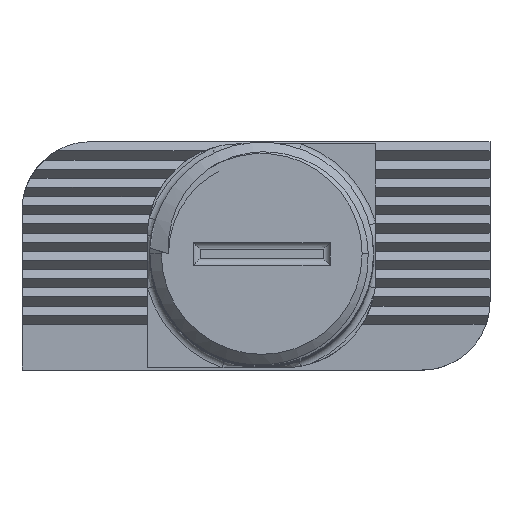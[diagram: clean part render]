
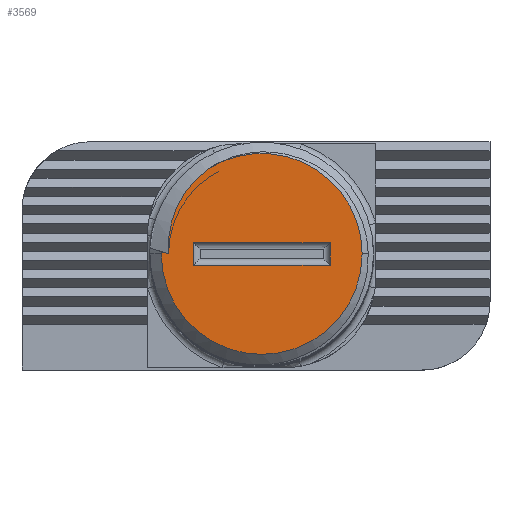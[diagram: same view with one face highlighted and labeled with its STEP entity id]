
A CAD part, top view. The second image highlights one B-rep face of the part: STEP entity #3569.
In plain terms, the highlighted planar face has unit normal (0, 0, 1).
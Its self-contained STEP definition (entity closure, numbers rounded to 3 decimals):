
#111 = DIRECTION ( 'NONE',  ( 1., 0., 0. ) ) ;
#257 = DIRECTION ( 'NONE',  ( 0., -1., 0. ) ) ;
#287 = VECTOR ( 'NONE', #5406, 1000. ) ;
#341 = EDGE_CURVE ( 'NONE', #7554, #1872, #4583, .T. ) ;
#448 = ORIENTED_EDGE ( 'NONE', *, *, #5956, .T. ) ;
#472 = CARTESIAN_POINT ( 'NONE',  ( -5.4, -0.353, 54.5 ) ) ;
#523 = CARTESIAN_POINT ( 'NONE',  ( -3.665, 3.12, 54.5 ) ) ;
#549 = CARTESIAN_POINT ( 'NONE',  ( 2., 0.147, 54.5 ) ) ;
#627 = VERTEX_POINT ( 'NONE', #472 ) ;
#813 = FACE_BOUND ( 'NONE', #3524, .T. ) ;
#1019 = CARTESIAN_POINT ( 'NONE',  ( -4., 0.147, 54.5 ) ) ;
#1113 = CIRCLE ( 'NONE', #7298, 4.4 ) ;
#1139 = AXIS2_PLACEMENT_3D ( 'NONE', #2149, #7530, #2936 ) ;
#1294 = CARTESIAN_POINT ( 'NONE',  ( -3.388, 3.343, 54.5 ) ) ;
#1546 = CARTESIAN_POINT ( 'NONE',  ( 3.4, -0.353, 54.5 ) ) ;
#1755 = ORIENTED_EDGE ( 'NONE', *, *, #3564, .F. ) ;
#1870 = CARTESIAN_POINT ( 'NONE',  ( -4., 0.147, 54.5 ) ) ;
#1872 = VERTEX_POINT ( 'NONE', #2080 ) ;
#2044 = CARTESIAN_POINT ( 'NONE',  ( -5.088, 0.355, 54.5 ) ) ;
#2080 = CARTESIAN_POINT ( 'NONE',  ( -4., -0.853, 54.5 ) ) ;
#2149 = CARTESIAN_POINT ( 'NONE',  ( -1., -0.353, 54.5 ) ) ;
#2400 = CARTESIAN_POINT ( 'NONE',  ( -3.388, 3.343, 54.5 ) ) ;
#2831 = CARTESIAN_POINT ( 'NONE',  ( -4.951, 1.052, 54.5 ) ) ;
#2859 = AXIS2_PLACEMENT_3D ( 'NONE', #8372, #3783, #9143 ) ;
#2893 = ORIENTED_EDGE ( 'NONE', *, *, #4945, .F. ) ;
#2936 = DIRECTION ( 'NONE',  ( 1., 0., 0. ) ) ;
#2958 = CARTESIAN_POINT ( 'NONE',  ( -5.08, -0.353, 54.5 ) ) ;
#3013 = EDGE_CURVE ( 'NONE', #7172, #7554, #9135, .T. ) ;
#3219 = EDGE_CURVE ( 'NONE', #5581, #3556, #4706, .T. ) ;
#3273 = VECTOR ( 'NONE', #5296, 1000. ) ;
#3497 = ORIENTED_EDGE ( 'NONE', *, *, #3013, .F. ) ;
#3524 = EDGE_LOOP ( 'NONE', ( #6341, #3497, #2893, #1755 ) ) ;
#3556 = VERTEX_POINT ( 'NONE', #2400 ) ;
#3564 = EDGE_CURVE ( 'NONE', #1872, #8636, #6975, .T. ) ;
#3569 = ADVANCED_FACE ( 'NONE', ( #813, #4978 ), #8570, .T. ) ;
#3620 = CARTESIAN_POINT ( 'NONE',  ( -4.781, 1.552, 54.5 ) ) ;
#3783 = DIRECTION ( 'NONE',  ( 0., 0., 1. ) ) ;
#4070 = ORIENTED_EDGE ( 'NONE', *, *, #3219, .F. ) ;
#4074 = DIRECTION ( 'NONE',  ( 0., 0., 1. ) ) ;
#4189 = LINE ( 'NONE', #6167, #287 ) ;
#4414 = CARTESIAN_POINT ( 'NONE',  ( -4.371, 2.337, 54.5 ) ) ;
#4583 = LINE ( 'NONE', #1019, #5885 ) ;
#4706 = B_SPLINE_CURVE_WITH_KNOTS ( 'NONE', 3,
 ( #2958, #9862, #2044, #7428, #2831, #8215, #3620, #8991, #4414, #9766, #5181, #523, #5942, #1294 ),
 .UNSPECIFIED., .F., .F.,
 ( 4, 2, 2, 2, 2, 2, 4 ),
 ( 0., 0.001, 0.002, 0.002, 0.003, 0.004, 0.004 ),
 .UNSPECIFIED. ) ;
#4769 = DIRECTION ( 'NONE',  ( 0., 0., 1. ) ) ;
#4901 = EDGE_LOOP ( 'NONE', ( #448, #5673, #6500, #9422, #4070 ) ) ;
#4945 = EDGE_CURVE ( 'NONE', #8636, #7172, #5789, .T. ) ;
#4978 = FACE_OUTER_BOUND ( 'NONE', #4901, .T. ) ;
#5143 = CARTESIAN_POINT ( 'NONE',  ( -5.399, -0.252, 54.5 ) ) ;
#5181 = CARTESIAN_POINT ( 'NONE',  ( -3.919, 2.875, 54.5 ) ) ;
#5296 = DIRECTION ( 'NONE',  ( 0., 1., 0. ) ) ;
#5406 = DIRECTION ( 'NONE',  ( -0.953, 0.301, 0. ) ) ;
#5443 = CIRCLE ( 'NONE', #1139, 4.4 ) ;
#5456 = CIRCLE ( 'NONE', #2859, 4.4 ) ;
#5497 = CARTESIAN_POINT ( 'NONE',  ( -4., -0.853, 54.5 ) ) ;
#5581 = VERTEX_POINT ( 'NONE', #9582 ) ;
#5673 = ORIENTED_EDGE ( 'NONE', *, *, #7830, .T. ) ;
#5789 = LINE ( 'NONE', #9925, #3273 ) ;
#5885 = VECTOR ( 'NONE', #257, 1000. ) ;
#5942 = CARTESIAN_POINT ( 'NONE',  ( -3.529, 3.236, 54.5 ) ) ;
#5956 = EDGE_CURVE ( 'NONE', #5581, #7671, #4189, .T. ) ;
#6042 = VERTEX_POINT ( 'NONE', #1546 ) ;
#6167 = CARTESIAN_POINT ( 'NONE',  ( -1.371, -1.526, 54.5 ) ) ;
#6180 = EDGE_CURVE ( 'NONE', #6042, #3556, #1113, .T. ) ;
#6215 = DIRECTION ( 'NONE',  ( 1., 0., 0. ) ) ;
#6341 = ORIENTED_EDGE ( 'NONE', *, *, #341, .F. ) ;
#6500 = ORIENTED_EDGE ( 'NONE', *, *, #8808, .T. ) ;
#6527 = DIRECTION ( 'NONE',  ( -1., 0., 0. ) ) ;
#6975 = LINE ( 'NONE', #5497, #8787 ) ;
#7172 = VERTEX_POINT ( 'NONE', #549 ) ;
#7274 = CARTESIAN_POINT ( 'NONE',  ( -4., 0.147, 54.5 ) ) ;
#7298 = AXIS2_PLACEMENT_3D ( 'NONE', #8656, #4074, #9429 ) ;
#7327 = VECTOR ( 'NONE', #6527, 1000. ) ;
#7428 = CARTESIAN_POINT ( 'NONE',  ( -4.994, 0.878, 54.5 ) ) ;
#7530 = DIRECTION ( 'NONE',  ( 0., 0., 1. ) ) ;
#7554 = VERTEX_POINT ( 'NONE', #1870 ) ;
#7671 = VERTEX_POINT ( 'NONE', #5143 ) ;
#7784 = CARTESIAN_POINT ( 'NONE',  ( -1., -0.353, 54.5 ) ) ;
#7830 = EDGE_CURVE ( 'NONE', #7671, #627, #5456, .T. ) ;
#8215 = CARTESIAN_POINT ( 'NONE',  ( -4.845, 1.388, 54.5 ) ) ;
#8372 = CARTESIAN_POINT ( 'NONE',  ( -1., -0.353, 54.5 ) ) ;
#8570 = PLANE ( 'NONE',  #9041 ) ;
#8636 = VERTEX_POINT ( 'NONE', #9237 ) ;
#8656 = CARTESIAN_POINT ( 'NONE',  ( -1., -0.353, 54.5 ) ) ;
#8787 = VECTOR ( 'NONE', #6215, 1000. ) ;
#8808 = EDGE_CURVE ( 'NONE', #627, #6042, #5443, .T. ) ;
#8991 = CARTESIAN_POINT ( 'NONE',  ( -4.561, 2.031, 54.5 ) ) ;
#9041 = AXIS2_PLACEMENT_3D ( 'NONE', #7784, #4769, #111 ) ;
#9135 = LINE ( 'NONE', #7274, #7327 ) ;
#9143 = DIRECTION ( 'NONE',  ( 1., 0., 0. ) ) ;
#9237 = CARTESIAN_POINT ( 'NONE',  ( 2., -0.853, 54.5 ) ) ;
#9422 = ORIENTED_EDGE ( 'NONE', *, *, #6180, .T. ) ;
#9429 = DIRECTION ( 'NONE',  ( 1., 0., 0. ) ) ;
#9582 = CARTESIAN_POINT ( 'NONE',  ( -5.08, -0.353, 54.5 ) ) ;
#9766 = CARTESIAN_POINT ( 'NONE',  ( -4.038, 2.746, 54.5 ) ) ;
#9862 = CARTESIAN_POINT ( 'NONE',  ( -5.106, 0.003, 54.5 ) ) ;
#9925 = CARTESIAN_POINT ( 'NONE',  ( 2., 0.147, 54.5 ) ) ;
